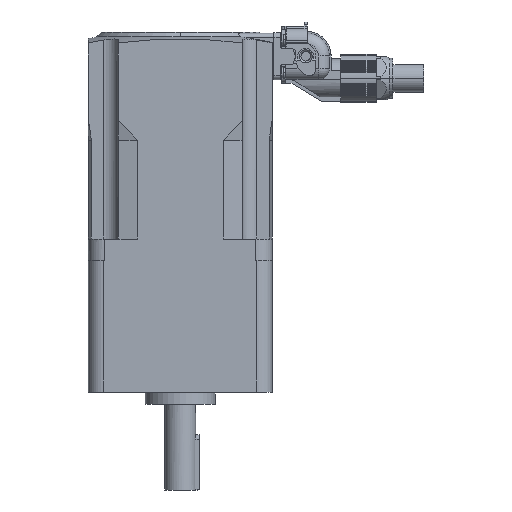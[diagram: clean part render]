
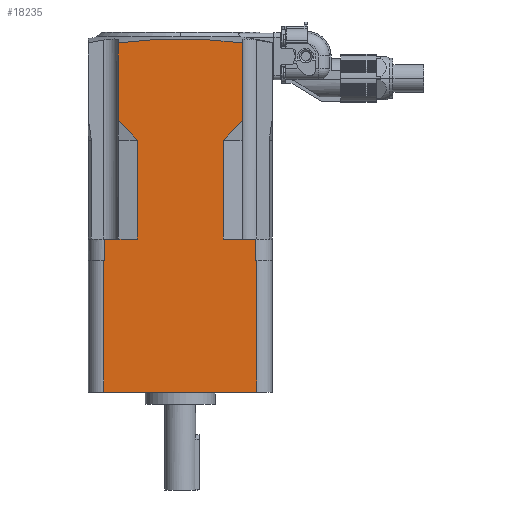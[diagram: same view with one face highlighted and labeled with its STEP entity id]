
A CAD part, left-side view. The second image highlights one B-rep face of the part: STEP entity #18235.
In plain terms, the highlighted planar face has unit normal (-1, 0, 0).
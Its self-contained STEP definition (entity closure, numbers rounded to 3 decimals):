
#45 = LINE ( 'NONE', #19054, #18569 ) ;
#112 = DIRECTION ( 'NONE',  ( 0., -1., 0. ) ) ;
#345 = VERTEX_POINT ( 'NONE', #14526 ) ;
#498 = ORIENTED_EDGE ( 'NONE', *, *, #9965, .T. ) ;
#677 = VECTOR ( 'NONE', #11310, 1000. ) ;
#877 = CARTESIAN_POINT ( 'NONE',  ( -30., 24.9, 0. ) ) ;
#928 = LINE ( 'NONE', #19122, #6800 ) ;
#932 = CARTESIAN_POINT ( 'NONE',  ( -30., 12.945, 38.211 ) ) ;
#1131 = DIRECTION ( 'NONE',  ( 0., 0., 1. ) ) ;
#1269 = EDGE_CURVE ( 'NONE', #9787, #8748, #12305, .T. ) ;
#1905 = VERTEX_POINT ( 'NONE', #11303 ) ;
#2106 = ORIENTED_EDGE ( 'NONE', *, *, #5599, .F. ) ;
#2116 = ORIENTED_EDGE ( 'NONE', *, *, #12280, .F. ) ;
#2335 = EDGE_CURVE ( 'NONE', #4986, #5687, #12558, .T. ) ;
#2441 = EDGE_LOOP ( 'NONE', ( #2116, #4296, #498, #5409, #8369, #15462, #18070, #2106, #13835, #2465, #8300, #10248, #17048, #7383, #14512, #9622 ) ) ;
#2465 = ORIENTED_EDGE ( 'NONE', *, *, #5122, .T. ) ;
#2645 = EDGE_CURVE ( 'NONE', #345, #1905, #17662, .T. ) ;
#2688 = EDGE_CURVE ( 'NONE', #6682, #14452, #928, .T. ) ;
#2736 = VECTOR ( 'NONE', #13185, 1000. ) ;
#3148 = VECTOR ( 'NONE', #17686, 1000. ) ;
#3175 = VERTEX_POINT ( 'NONE', #10515 ) ;
#3271 = DIRECTION ( 'NONE',  ( 0., 0., -1. ) ) ;
#3362 = LINE ( 'NONE', #15654, #3956 ) ;
#3685 = CARTESIAN_POINT ( 'NONE',  ( -30., 24.8, 0. ) ) ;
#3956 = VECTOR ( 'NONE', #17309, 1000. ) ;
#4189 = VECTOR ( 'NONE', #10424, 1000. ) ;
#4207 = CARTESIAN_POINT ( 'NONE',  ( -30., 25., -43. ) ) ;
#4296 = ORIENTED_EDGE ( 'NONE', *, *, #17287, .T. ) ;
#4380 = CARTESIAN_POINT ( 'NONE',  ( -30., -25., -43. ) ) ;
#4388 = VERTEX_POINT ( 'NONE', #4380 ) ;
#4489 = LINE ( 'NONE', #17559, #4189 ) ;
#4498 = VECTOR ( 'NONE', #4575, 1000. ) ;
#4575 = DIRECTION ( 'NONE',  ( 0., 0., 1. ) ) ;
#4942 = CARTESIAN_POINT ( 'NONE',  ( -30., -14., 7. ) ) ;
#4986 = VERTEX_POINT ( 'NONE', #19089 ) ;
#5109 = VECTOR ( 'NONE', #6577, 1000. ) ;
#5122 = EDGE_CURVE ( 'NONE', #11879, #4986, #16369, .T. ) ;
#5395 = DIRECTION ( 'NONE',  ( 0., -1., 0. ) ) ;
#5409 = ORIENTED_EDGE ( 'NONE', *, *, #9764, .T. ) ;
#5599 = EDGE_CURVE ( 'NONE', #3175, #1905, #14929, .T. ) ;
#5652 = CARTESIAN_POINT ( 'NONE',  ( -30., -14., 39.3 ) ) ;
#5687 = VERTEX_POINT ( 'NONE', #4207 ) ;
#5953 = CARTESIAN_POINT ( 'NONE',  ( -30., 14., 7. ) ) ;
#5980 = CARTESIAN_POINT ( 'NONE',  ( -30., -24.8, 0. ) ) ;
#6034 = LINE ( 'NONE', #16382, #4498 ) ;
#6049 = VERTEX_POINT ( 'NONE', #5652 ) ;
#6577 = DIRECTION ( 'NONE',  ( 0., 0.696, 0.718 ) ) ;
#6682 = VERTEX_POINT ( 'NONE', #4942 ) ;
#6794 = CARTESIAN_POINT ( 'NONE',  ( -29.996, -25., 0. ) ) ;
#6800 = VECTOR ( 'NONE', #5395, 1000. ) ;
#6868 = LINE ( 'NONE', #932, #5109 ) ;
#7004 = EDGE_CURVE ( 'NONE', #14452, #14296, #18959, .T. ) ;
#7181 = EDGE_CURVE ( 'NONE', #3175, #11879, #17192, .T. ) ;
#7383 = ORIENTED_EDGE ( 'NONE', *, *, #8216, .T. ) ;
#7462 = CARTESIAN_POINT ( 'NONE',  ( -29.996, -25., 0. ) ) ;
#7861 = FACE_OUTER_BOUND ( 'NONE', #2441, .T. ) ;
#8082 = CARTESIAN_POINT ( 'NONE',  ( -29.996, 25., 0. ) ) ;
#8212 = CARTESIAN_POINT ( 'NONE',  ( -30., 24.7, 15. ) ) ;
#8216 = EDGE_CURVE ( 'NONE', #10650, #14296, #18741, .T. ) ;
#8300 = ORIENTED_EDGE ( 'NONE', *, *, #2335, .T. ) ;
#8369 = ORIENTED_EDGE ( 'NONE', *, *, #1269, .F. ) ;
#8405 = EDGE_CURVE ( 'NONE', #345, #9787, #6868, .T. ) ;
#8538 = CARTESIAN_POINT ( 'NONE',  ( -30., -25., -43. ) ) ;
#8544 = CARTESIAN_POINT ( 'NONE',  ( -30., -24.7, 0. ) ) ;
#8748 = VERTEX_POINT ( 'NONE', #14523 ) ;
#8918 = CARTESIAN_POINT ( 'NONE',  ( -30., -24.7, 15. ) ) ;
#9028 = CARTESIAN_POINT ( 'NONE',  ( -30., -20.2, 71.071 ) ) ;
#9189 = CARTESIAN_POINT ( 'NONE',  ( -30., -20.2, 45.7 ) ) ;
#9407 = DIRECTION ( 'NONE',  ( -1., 0., 0. ) ) ;
#9622 = ORIENTED_EDGE ( 'NONE', *, *, #2688, .F. ) ;
#9764 = EDGE_CURVE ( 'NONE', #18282, #8748, #16017, .T. ) ;
#9787 = VERTEX_POINT ( 'NONE', #10855 ) ;
#9965 = EDGE_CURVE ( 'NONE', #16061, #18282, #6034, .T. ) ;
#10248 = ORIENTED_EDGE ( 'NONE', *, *, #12022, .T. ) ;
#10258 = VECTOR ( 'NONE', #112, 1000. ) ;
#10424 = DIRECTION ( 'NONE',  ( 0., -0.696, 0.718 ) ) ;
#10515 = CARTESIAN_POINT ( 'NONE',  ( -30., 24.7, 7. ) ) ;
#10650 = VERTEX_POINT ( 'NONE', #6794 ) ;
#10665 = PLANE ( 'NONE',  #15779 ) ;
#10755 = DIRECTION ( 'NONE',  ( 0., 0., 1. ) ) ;
#10855 = CARTESIAN_POINT ( 'NONE',  ( -30., 20.2, 45.7 ) ) ;
#11007 = AXIS2_PLACEMENT_3D ( 'NONE', #18074, #9407, #10755 ) ;
#11083 = CARTESIAN_POINT ( 'NONE',  ( -30., 25., -43. ) ) ;
#11303 = CARTESIAN_POINT ( 'NONE',  ( -30., 14., 7. ) ) ;
#11310 = DIRECTION ( 'NONE',  ( 0., 0., -1. ) ) ;
#11879 = VERTEX_POINT ( 'NONE', #13030 ) ;
#12022 = EDGE_CURVE ( 'NONE', #5687, #4388, #45, .T. ) ;
#12202 = CARTESIAN_POINT ( 'NONE',  ( -30., 20.2, 25.441 ) ) ;
#12280 = EDGE_CURVE ( 'NONE', #6049, #6682, #3362, .T. ) ;
#12305 = LINE ( 'NONE', #12202, #17398 ) ;
#12377 = VECTOR ( 'NONE', #14476, 1000. ) ;
#12558 = LINE ( 'NONE', #11083, #12377 ) ;
#12633 = LINE ( 'NONE', #8538, #12739 ) ;
#12739 = VECTOR ( 'NONE', #1131, 1000. ) ;
#13030 = CARTESIAN_POINT ( 'NONE',  ( -30., 24.7, 0. ) ) ;
#13185 = DIRECTION ( 'NONE',  ( 0., 0., -1. ) ) ;
#13411 = CARTESIAN_POINT ( 'NONE',  ( -30., -24.9, 0. ) ) ;
#13835 = ORIENTED_EDGE ( 'NONE', *, *, #7181, .T. ) ;
#14033 = CARTESIAN_POINT ( 'NONE',  ( -30., 24.7, 0. ) ) ;
#14296 = VERTEX_POINT ( 'NONE', #17140 ) ;
#14414 = EDGE_CURVE ( 'NONE', #4388, #10650, #12633, .T. ) ;
#14452 = VERTEX_POINT ( 'NONE', #17683 ) ;
#14476 = DIRECTION ( 'NONE',  ( 0., 0., -1. ) ) ;
#14512 = ORIENTED_EDGE ( 'NONE', *, *, #7004, .F. ) ;
#14523 = CARTESIAN_POINT ( 'NONE',  ( -30., 20.2, 71.071 ) ) ;
#14526 = CARTESIAN_POINT ( 'NONE',  ( -30., 14., 39.3 ) ) ;
#14578 = DIRECTION ( 'NONE',  ( 0., -1., 0. ) ) ;
#14929 = LINE ( 'NONE', #5953, #10258 ) ;
#15462 = ORIENTED_EDGE ( 'NONE', *, *, #8405, .F. ) ;
#15654 = CARTESIAN_POINT ( 'NONE',  ( -30., -14., 39.3 ) ) ;
#15779 = AXIS2_PLACEMENT_3D ( 'NONE', #17886, #18084, #3271 ) ;
#16017 = CIRCLE ( 'NONE', #11007, 146.969 ) ;
#16061 = VERTEX_POINT ( 'NONE', #9189 ) ;
#16369 = B_SPLINE_CURVE_WITH_KNOTS ( 'NONE', 3,
 ( #14033, #3685, #877, #8082 ),
 .UNSPECIFIED., .F., .F.,
 ( 4, 4 ),
 ( 0.994, 1. ),
 .UNSPECIFIED. ) ;
#16382 = CARTESIAN_POINT ( 'NONE',  ( -30., -20.2, 25.441 ) ) ;
#16915 = DIRECTION ( 'NONE',  ( 0., 0., 1. ) ) ;
#17048 = ORIENTED_EDGE ( 'NONE', *, *, #14414, .T. ) ;
#17140 = CARTESIAN_POINT ( 'NONE',  ( -30., -24.7, 0. ) ) ;
#17192 = LINE ( 'NONE', #8212, #677 ) ;
#17287 = EDGE_CURVE ( 'NONE', #6049, #16061, #4489, .T. ) ;
#17309 = DIRECTION ( 'NONE',  ( 0., 0., -1. ) ) ;
#17398 = VECTOR ( 'NONE', #16915, 1000. ) ;
#17559 = CARTESIAN_POINT ( 'NONE',  ( -30., -12.945, 38.211 ) ) ;
#17574 = CARTESIAN_POINT ( 'NONE',  ( -30., 14., 39.3 ) ) ;
#17662 = LINE ( 'NONE', #17574, #2736 ) ;
#17683 = CARTESIAN_POINT ( 'NONE',  ( -30., -24.7, 7. ) ) ;
#17686 = DIRECTION ( 'NONE',  ( 0., 0., -1. ) ) ;
#17886 = CARTESIAN_POINT ( 'NONE',  ( -30., -30., 39.3 ) ) ;
#18070 = ORIENTED_EDGE ( 'NONE', *, *, #2645, .T. ) ;
#18074 = CARTESIAN_POINT ( 'NONE',  ( -30., 0., -74.504 ) ) ;
#18084 = DIRECTION ( 'NONE',  ( 1., 0., 0. ) ) ;
#18235 = ADVANCED_FACE ( 'NONE', ( #7861 ), #10665, .F. ) ;
#18282 = VERTEX_POINT ( 'NONE', #9028 ) ;
#18569 = VECTOR ( 'NONE', #14578, 1000. ) ;
#18741 = B_SPLINE_CURVE_WITH_KNOTS ( 'NONE', 3,
 ( #7462, #13411, #5980, #8544 ),
 .UNSPECIFIED., .F., .F.,
 ( 4, 4 ),
 ( 0., 0.006 ),
 .UNSPECIFIED. ) ;
#18959 = LINE ( 'NONE', #8918, #3148 ) ;
#19054 = CARTESIAN_POINT ( 'NONE',  ( -30., 30., -43. ) ) ;
#19089 = CARTESIAN_POINT ( 'NONE',  ( -29.996, 25., 0. ) ) ;
#19122 = CARTESIAN_POINT ( 'NONE',  ( -30., -14., 7. ) ) ;
